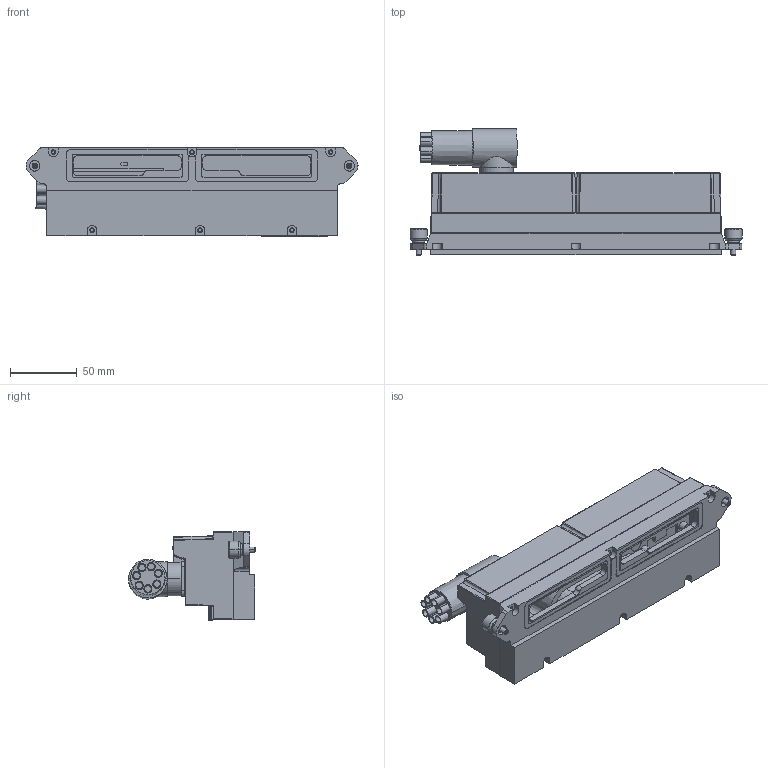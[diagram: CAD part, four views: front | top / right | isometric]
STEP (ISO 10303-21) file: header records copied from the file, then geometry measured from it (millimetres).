
FILE_DESCRIPTION((''),'2;1');
FILE_NAME('W0001356553_ASM','2024-08-14T10:45:10',('RRajan1'),('Rockwell Automation'),'CREO PARAMETRIC BY PTC INC, 2020281','CREO PARAMETRIC BY PTC INC, 2020281','');
FILE_SCHEMA(('CONFIG_CONTROL_DESIGN'));
Length unit declared in the file: millimetre
Products named in the file (11): W0001356539; 10004203877; W0001356540_ASM; W0001356582; 10005060436; 10005060437; W0001356580_ASM; 10005060491; A806268-SIMP; A806268-SIMP_ASM; W0001356553_ASM
Assembly tree (23 placements, depth 3):
  W0001356553_ASM
    W0001356540_ASM
      W0001356539
      10004203877  x2
    W0001356580_ASM
      W0001356582
      10005060436  x10
      10005060437  x4
    10005060491
    A806268-SIMP_ASM
      A806268-SIMP
Bounding box: 249.06 x 95.18 x 66.7 mm (x, y, z)
Volume: 261647.8 mm3; surface area: 136360.6 mm2
Topology: 25 solids, 25 shells, 1676 faces, 3859 edges, 2362 vertices
Faces by surface type: cylinder 604, plane 516, cone 332, torus 84, sphere 75, bspline 57, extrusion 8
Entity records: 38051 total; most frequent: CARTESIAN_POINT 9955, DIRECTION 6102, ORIENTED_EDGE 5634, EDGE_CURVE 2817, AXIS2_PLACEMENT_3D 2324, VERTEX_POINT 1739, VECTOR 1454, LINE 1446
